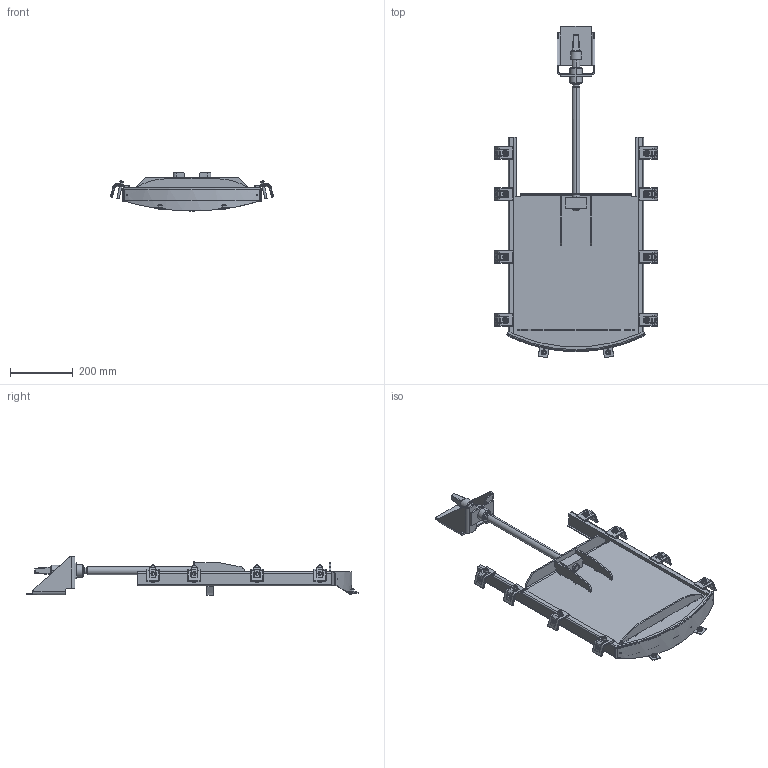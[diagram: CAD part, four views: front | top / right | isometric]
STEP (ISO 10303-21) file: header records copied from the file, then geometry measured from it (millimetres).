
FILE_DESCRIPTION (( 'STEP AP214' ), '1' );
FILE_NAME ('LW 350 Schacht1500 geschr..STEP', '2022-05-20T09:02:01', ( '' ), ( '' ), 'SwSTEP 2.0', 'SolidWorks 2021', '' );
FILE_SCHEMA (( 'AUTOMOTIVE_DESIGN' ));
Length unit declared in the file: millimetre
Products named in the file (1): LW 350 Schacht1500 geschr.
Bounding box: 519.38 x 1057.22 x 121.99 mm (x, y, z)
Volume: 3442730.9 mm3; surface area: 1031855.4 mm2
Topology: 1 solids, 11 shells, 1446 faces, 3432 edges, 1946 vertices
Faces by surface type: cylinder 565, plane 426, cone 146, sphere 112, torus 104, bspline 93
Entity records: 61252 total; most frequent: CARTESIAN_POINT 13314, DIRECTION 6850, ORIENTED_EDGE 6632, EDGE_CURVE 3316, AXIS2_PLACEMENT_3D 2714, VERTEX_POINT 1930, EDGE_LOOP 1558, UNCERTAINTY_MEASURE_WITH_UNIT 1449
